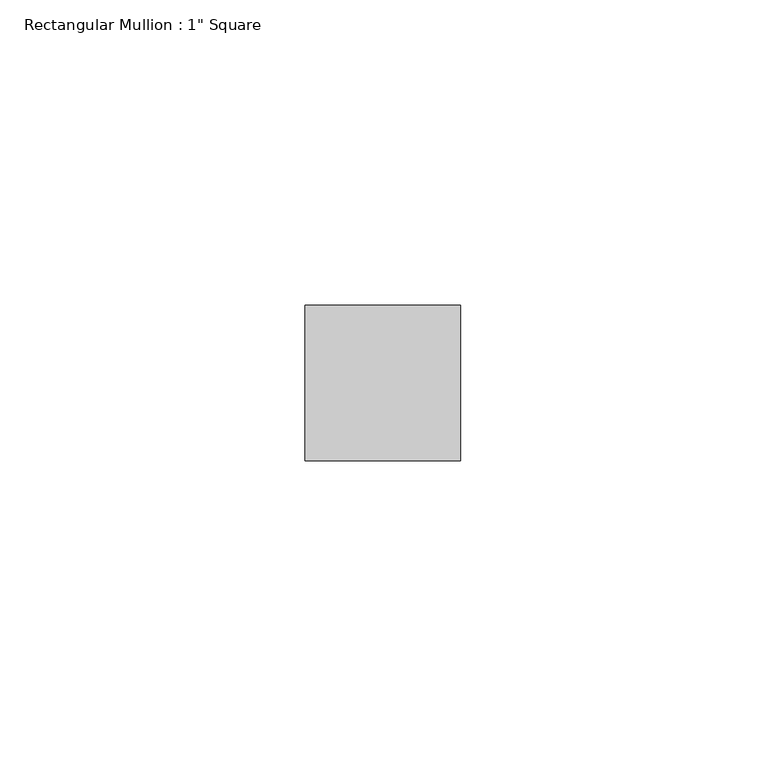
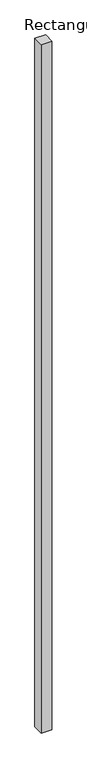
"""IFC4 building model written with IfcOpenShell, lengths in millimetres: member geometry."""

from ifc_helpers import new_model, si_unit, frame, origin, place, context, project, spatial, polyline, outline, extrude, source, transform, mapped, element, save


def member_302b4213(model_context):
    return source(origin(), model_context, "Body", "SweptSolid", [
        extrude(outline(polyline([(12.7, 12.7), (12.7, -12.7), (-12.7, -12.7), (-12.7, 12.7), (12.7, 12.7)])), frame((0.0, 0.0, -1739.7623919), z_axis=(0.0, 0.0, 1.0), x_axis=(1.0, 0.0, 0.0)), (0.0, 0.0, 1.0), 1739.7623919),
    ])


if __name__ == "__main__":
    model = new_model("IFC4")
    model_context = context("Model", 3, world=origin())
    ifc_project = project(units=[si_unit("LENGTHUNIT", "METRE", prefix="MILLI")], contexts=[model_context])
    site = spatial("IfcSite", under=ifc_project)
    building = spatial("IfcBuilding", under=site)
    placement = place(None, origin())
    member_shape = member_302b4213(model_context)
    element("IfcMember", 1, ObjectType="Rectangular Mullion : 1\" Square", at=placement, inside=building, context=model_context, shape_type="MappedRepresentation", body=[
        mapped(member_shape, transform((0.0, 0.0, 0.0), x_axis=(1.0, 0.0, 0.0), y_axis=(0.0, 1.0, 0.0), z_axis=(0.0, 0.0, 1.0))),
    ])
    save(model, "model.ifc")
